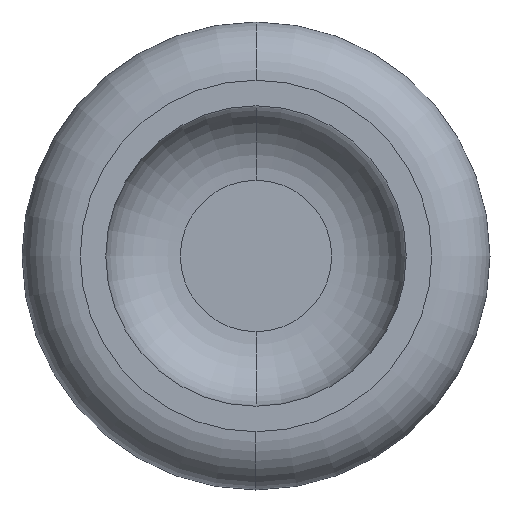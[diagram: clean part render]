
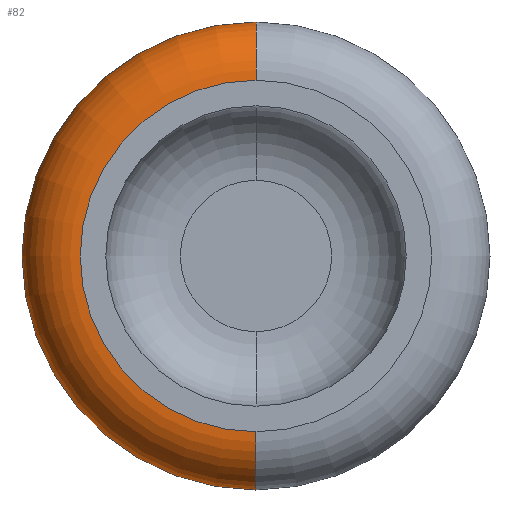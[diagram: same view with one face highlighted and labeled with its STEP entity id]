
A CAD part, left-side view. The second image highlights one B-rep face of the part: STEP entity #82.
In plain terms, the highlighted toroidal (fillet/blend) face has major radius 7.55 mm and minor radius 2.5 mm.
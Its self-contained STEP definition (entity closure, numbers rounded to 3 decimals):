
#82=ADVANCED_FACE('',(#187),#188,.T.);
#187=FACE_OUTER_BOUND('',#317,.T.);
#188=TOROIDAL_SURFACE('',#318,7.55,2.5);
#317=EDGE_LOOP('',(#486,#487,#488,#489));
#318=AXIS2_PLACEMENT_3D('',#490,#491,#492);
#486=ORIENTED_EDGE('',*,*,#752,.T.);
#487=ORIENTED_EDGE('',*,*,#760,.F.);
#488=ORIENTED_EDGE('',*,*,#761,.F.);
#489=ORIENTED_EDGE('',*,*,#762,.F.);
#490=CARTESIAN_POINT('',(7.,0.0,0.));
#491=DIRECTION('',(-1.0,0.0,0.));
#492=DIRECTION('',(0.,0.0,1.0));
#752=EDGE_CURVE('',#840,#839,#884,.T.);
#760=EDGE_CURVE('',#887,#839,#896,.T.);
#761=EDGE_CURVE('',#890,#887,#897,.T.);
#762=EDGE_CURVE('',#840,#890,#898,.T.);
#839=VERTEX_POINT('',#999);
#840=VERTEX_POINT('',#1000);
#884=CIRCLE('',#1044,10.05);
#887=VERTEX_POINT('',#1047);
#890=VERTEX_POINT('',#1051);
#896=CIRCLE('',#1058,2.5);
#897=CIRCLE('',#1059,7.55);
#898=CIRCLE('',#1060,2.5);
#999=CARTESIAN_POINT('',(7.,0.,-10.05));
#1000=CARTESIAN_POINT('',(7.,0.,10.05));
#1044=AXIS2_PLACEMENT_3D('',#1236,#1237,#1238);
#1047=CARTESIAN_POINT('',(4.5,0.,-7.55));
#1051=CARTESIAN_POINT('',(4.5,0.,7.55));
#1058=AXIS2_PLACEMENT_3D('',#1250,#1251,#1252);
#1059=AXIS2_PLACEMENT_3D('',#1253,#1254,#1255);
#1060=AXIS2_PLACEMENT_3D('',#1256,#1257,#1258);
#1236=CARTESIAN_POINT('',(7.,0.0,0.));
#1237=DIRECTION('',(-1.0,0.0,0.));
#1238=DIRECTION('',(0.,0.0,1.0));
#1250=CARTESIAN_POINT('',(7.,0.,-7.55));
#1251=DIRECTION('',(0.,-1.0,0.));
#1252=DIRECTION('',(0.,0.,-1.0));
#1253=CARTESIAN_POINT('',(4.5,0.0,0.));
#1254=DIRECTION('',(-1.0,0.0,0.));
#1255=DIRECTION('',(0.,0.0,-1.0));
#1256=CARTESIAN_POINT('',(7.,0.,7.55));
#1257=DIRECTION('',(0.,-1.0,0.));
#1258=DIRECTION('',(0.,0.,1.0));
